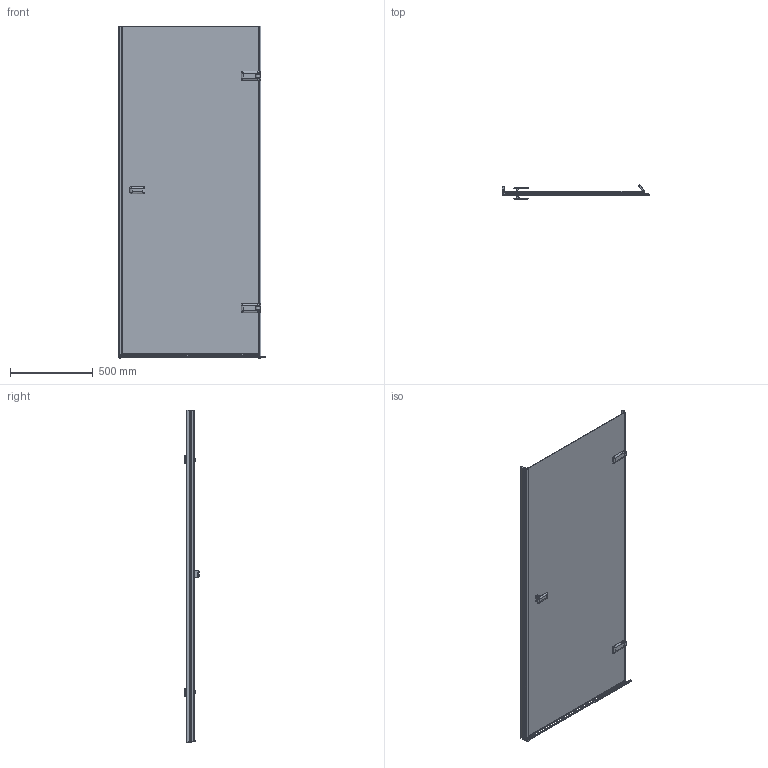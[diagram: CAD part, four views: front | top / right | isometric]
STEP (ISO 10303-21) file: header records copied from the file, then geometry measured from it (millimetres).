
FILE_DESCRIPTION(/* description */ (''),/* implementation_level */ '2;1');
FILE_NAME(/* name */ 'D:\4\888\TREND DOOR GK-861G45B\TREND DOOR GK-861G45B правая модель\TREND DOOR GK-861G45B ПРАВАЯ-3D.stp',/* time_stamp */ '2018-03-23T09:35:06+03:00',/* author */ ('ChechurovS'),/* organization */ (''),/* preprocessor_version */ 'ST-DEVELOPER v15.2',/* originating_system */ 'Autodesk Inventor 2014',/* authorisation */ '');
FILE_SCHEMA (('CONFIG_CONTROL_DESIGN'));
Length unit declared in the file: millimetre
Products named in the file (1): TREND DOOR GK-861G45B ПРАВАЯ-
3D
Bounding box: 888.8 x 86.41 x 2000 mm (x, y, z)
Volume: 11469629.5 mm3; surface area: 3967896.5 mm2
Topology: 4 solids, 6 shells, 850 faces, 2414 edges, 1524 vertices
Faces by surface type: plane 497, cylinder 278, bspline 51, torus 20, sphere 4
Full cylindrical faces by diameter (mm): 12 x2
Entity records: 31115 total; most frequent: CARTESIAN_POINT 8038, ORIENTED_EDGE 4774, DIRECTION 4504, EDGE_CURVE 2383, LINE 1666, VECTOR 1666, VERTEX_POINT 1524, AXIS2_PLACEMENT_3D 1419
